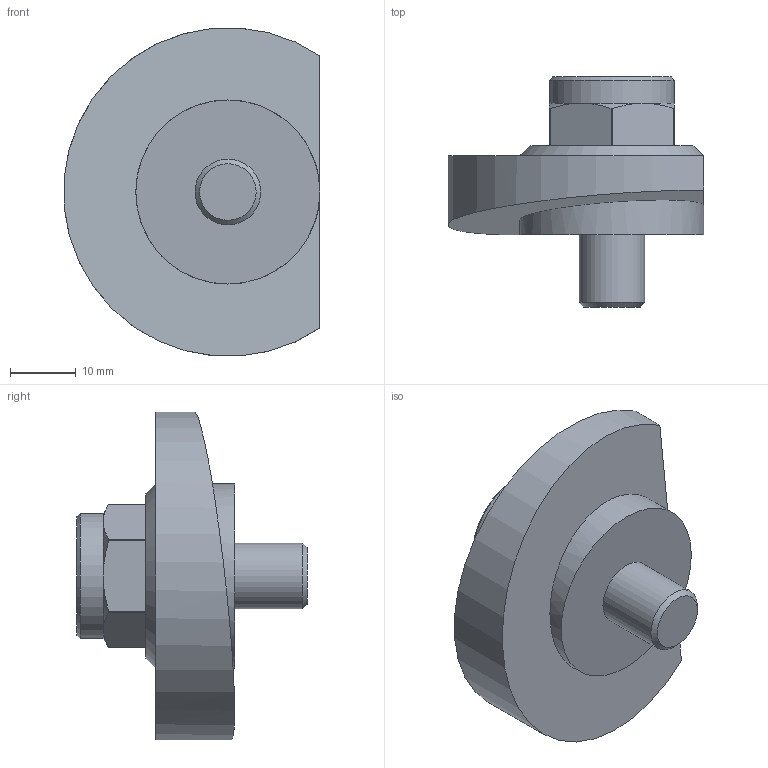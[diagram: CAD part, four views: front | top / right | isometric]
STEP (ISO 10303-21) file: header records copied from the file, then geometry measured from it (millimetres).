
FILE_DESCRIPTION( ( 'STEP AP203' ), '1' );
FILE_NAME( 'C:/Temp/Ganter_Step_05_03_2020/data/2_3/gn_918_2/Clamping bolt GN 918.2-50-SK-L.stp', '2020-03-05T13:12:09', ( 'License CC BY-ND 4.0' ), ( 'CADENAS' ), ' ', 'PARTsolutions', ' ' );
FILE_SCHEMA( ( 'CONFIG_CONTROL_DESIGN' ) );
Length unit declared in the file: millimetre
Products named in the file (1): _Clamping bolt GN 918.2-50-SK-L
Bounding box: 38.92 x 35 x 49.86 mm (x, y, z)
Volume: 21266.7 mm3; surface area: 6101.1 mm2
Topology: 1 solids, 1 shells, 46 faces, 114 edges, 70 vertices
Faces by surface type: plane 25, cylinder 11, cone 10
Full cylindrical faces by diameter (mm): 6 x1, 10 x1, 19 x1, 28 x1
Entity records: 1324 total; most frequent: CARTESIAN_POINT 278, DIRECTION 214, ORIENTED_EDGE 192, EDGE_CURVE 96, AXIS2_PLACEMENT_3D 83, VERTEX_POINT 63, EDGE_LOOP 56, FACE_OUTER_BOUND 50
